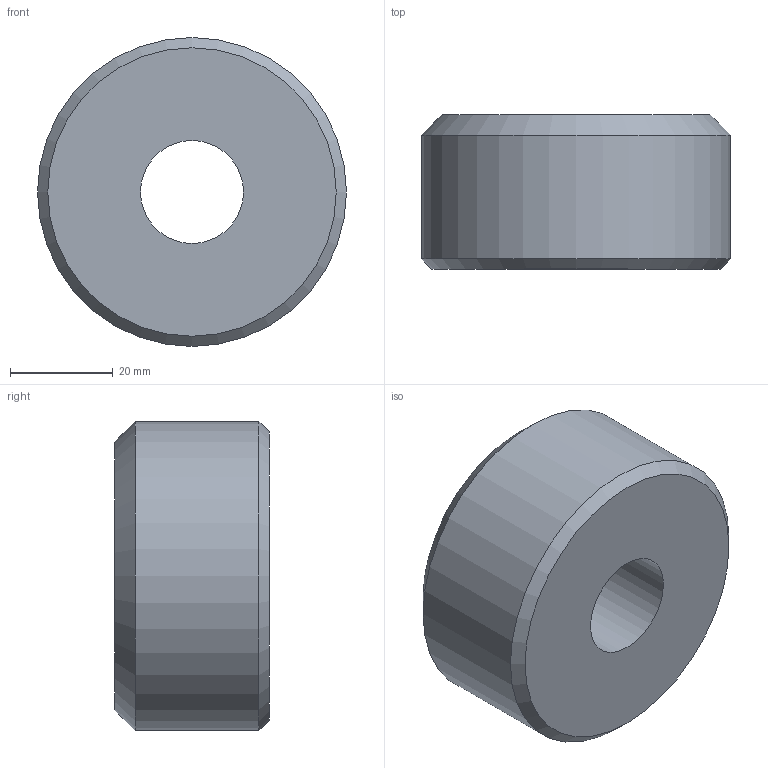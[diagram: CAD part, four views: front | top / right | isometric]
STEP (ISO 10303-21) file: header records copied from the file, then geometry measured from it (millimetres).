
FILE_DESCRIPTION(/* description */ (''),/* implementation_level */ '2;1');
FILE_NAME(/* name */ 'C:\Users\stagistaCAD\Desktop\00\00001105.stp',/* time_stamp */ '2018-06-18T09:00:31+02:00',/* author */ ('stagistacad'),/* organization */ (''),/* preprocessor_version */ 'ST-DEVELOPER v15.6',/* originating_system */ 'Autodesk Inventor 2015',/* authorisation */ '');
FILE_SCHEMA (('AUTOMOTIVE_DESIGN { 1 0 10303 214 3 1 1 }'));
Length unit declared in the file: millimetre
Products named in the file (1): 00001105
Bounding box: 60 x 30 x 60 mm (x, y, z)
Volume: 73588.7 mm3; surface area: 11877.8 mm2
Topology: 1 solids, 1 shells, 6 faces, 10 edges, 6 vertices
Faces by surface type: cone 2, cylinder 2, plane 2
Full cylindrical faces by diameter (mm): 20 x1, 60 x1
Entity records: 152 total; most frequent: DIRECTION 26, CARTESIAN_POINT 19, AXIS2_PLACEMENT_3D 13, EDGE_LOOP 12, ORIENTED_EDGE 12, FACE_BOUND 6, FACE_OUTER_BOUND 6, CIRCLE 6
